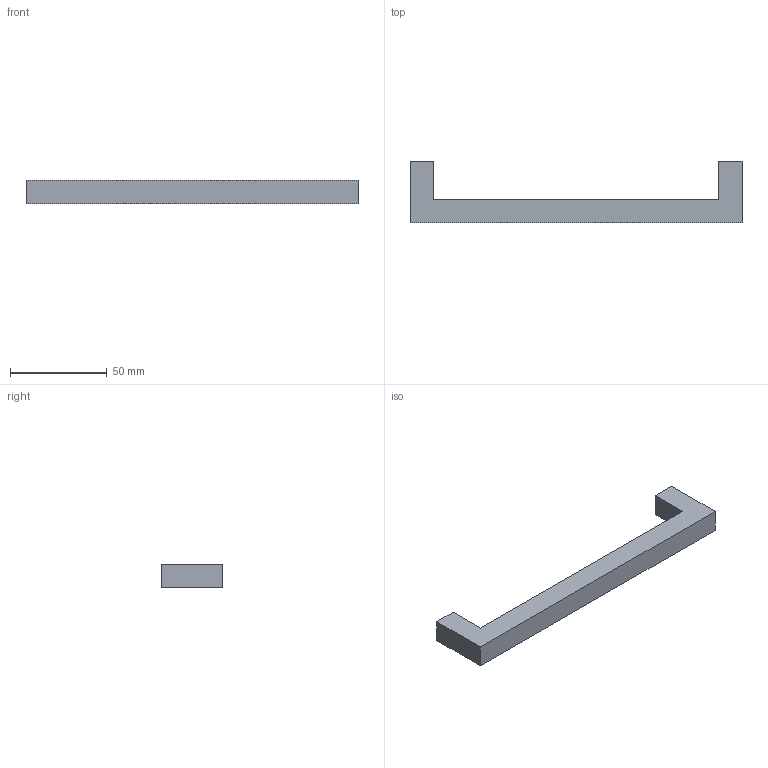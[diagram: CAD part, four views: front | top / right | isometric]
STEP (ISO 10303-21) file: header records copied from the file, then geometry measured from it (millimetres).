
FILE_DESCRIPTION( ( 'STEP AP214' ), '1' );
FILE_NAME( 'C:/Users/kulkarni/Desktop/Apurva/2015/Prodecor_2016/Cadfiles/same as files/Anzio/9207348.stp', ' ', ( ' ' ), ( ' ' ), 'PSStep 15.0.47', 'PARTsolutions', ' ' );
FILE_SCHEMA( ( 'AUTOMOTIVE_DESIGN { 1 0 10303 214 1 1 1 1 }' ) );
Length unit declared in the file: millimetre
Products named in the file (1): _9207348
Bounding box: 172 x 32 x 12 mm (x, y, z)
Volume: 30276.7 mm3; surface area: 10715.3 mm2
Topology: 1 solids, 1 shells, 14 faces, 30 edges, 20 vertices
Faces by surface type: plane 12, cylinder 2
Full cylindrical faces by diameter (mm): 4 x2
Entity records: 496 total; most frequent: CARTESIAN_POINT 63, DIRECTION 62, ORIENTED_EDGE 56, EDGE_CURVE 28, LINE 24, VECTOR 24, VERTEX_POINT 20, AXIS2_PLACEMENT_3D 19
